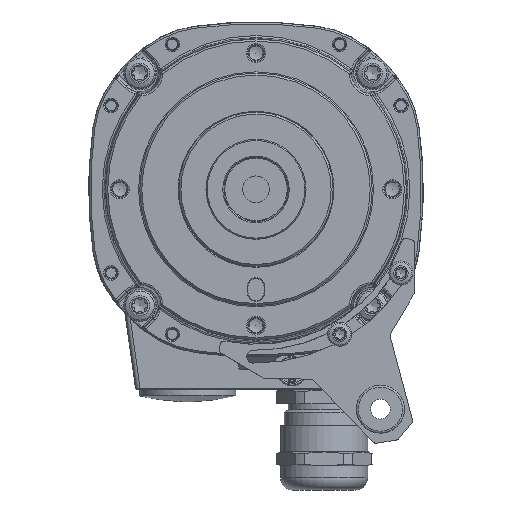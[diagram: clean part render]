
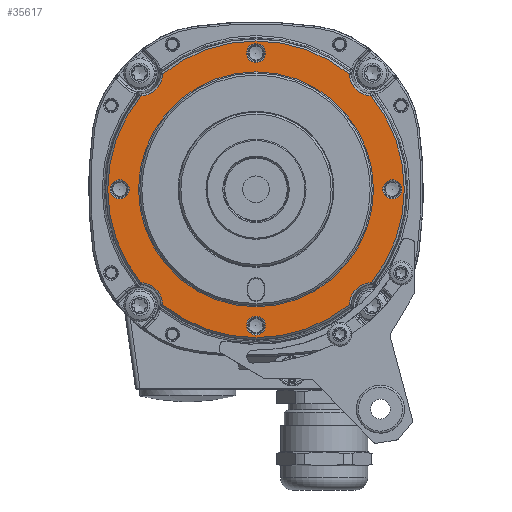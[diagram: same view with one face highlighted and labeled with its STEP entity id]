
A CAD part, front view. The second image highlights one B-rep face of the part: STEP entity #35617.
In plain terms, the highlighted planar face has unit normal (0, -1, 0).
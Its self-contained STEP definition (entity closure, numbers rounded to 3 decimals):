
#511=CIRCLE('',#37230,29.3);
#512=CIRCLE('',#37232,2.366);
#513=CIRCLE('',#37234,2.366);
#514=CIRCLE('',#37236,2.366);
#515=CIRCLE('',#37238,2.366);
#516=CIRCLE('',#37240,37.);
#519=CIRCLE('',#37245,37.);
#544=CIRCLE('',#37283,5.733);
#557=CIRCLE('',#37306,5.733);
#559=CIRCLE('',#37311,5.733);
#560=CIRCLE('',#37312,37.);
#561=CIRCLE('',#37313,5.733);
#562=CIRCLE('',#37314,37.);
#1488=PLANE('',#37310);
#6534=ORIENTED_EDGE('',*,*,#13524,.T.);
#6535=ORIENTED_EDGE('',*,*,#13619,.F.);
#6536=ORIENTED_EDGE('',*,*,#13620,.T.);
#6537=ORIENTED_EDGE('',*,*,#13621,.F.);
#6538=ORIENTED_EDGE('',*,*,#13622,.T.);
#6539=ORIENTED_EDGE('',*,*,#13613,.F.);
#6540=ORIENTED_EDGE('',*,*,#13511,.T.);
#6541=ORIENTED_EDGE('',*,*,#13576,.F.);
#6542=ORIENTED_EDGE('',*,*,#13506,.F.);
#6543=ORIENTED_EDGE('',*,*,#13505,.F.);
#6544=ORIENTED_EDGE('',*,*,#13504,.F.);
#6545=ORIENTED_EDGE('',*,*,#13503,.F.);
#6546=ORIENTED_EDGE('',*,*,#13502,.F.);
#13502=EDGE_CURVE('',#20332,#20332,#511,.T.);
#13503=EDGE_CURVE('',#20333,#20333,#512,.T.);
#13504=EDGE_CURVE('',#20334,#20334,#513,.T.);
#13505=EDGE_CURVE('',#20335,#20335,#514,.T.);
#13506=EDGE_CURVE('',#20336,#20336,#515,.T.);
#13511=EDGE_CURVE('',#20337,#20340,#516,.T.);
#13524=EDGE_CURVE('',#20350,#20349,#519,.T.);
#13576=EDGE_CURVE('',#20350,#20340,#544,.T.);
#13613=EDGE_CURVE('',#20337,#20412,#557,.T.);
#13619=EDGE_CURVE('',#20414,#20349,#559,.T.);
#13620=EDGE_CURVE('',#20414,#20415,#560,.T.);
#13621=EDGE_CURVE('',#20416,#20415,#561,.T.);
#13622=EDGE_CURVE('',#20416,#20412,#562,.T.);
#18302=EDGE_LOOP('',(#6534,#6535,#6536,#6537,#6538,#6539,#6540,#6541));
#18303=EDGE_LOOP('',(#6542));
#18304=EDGE_LOOP('',(#6543));
#18305=EDGE_LOOP('',(#6544));
#18306=EDGE_LOOP('',(#6545));
#18307=EDGE_LOOP('',(#6546));
#20332=VERTEX_POINT('',#55680);
#20333=VERTEX_POINT('',#55683);
#20334=VERTEX_POINT('',#55686);
#20335=VERTEX_POINT('',#55689);
#20336=VERTEX_POINT('',#55692);
#20337=VERTEX_POINT('',#55698);
#20340=VERTEX_POINT('',#55713);
#20349=VERTEX_POINT('',#55796);
#20350=VERTEX_POINT('',#55798);
#20412=VERTEX_POINT('',#56187);
#20414=VERTEX_POINT('',#56230);
#20415=VERTEX_POINT('',#56232);
#20416=VERTEX_POINT('',#56234);
#22755=FACE_BOUND('',#18302,.T.);
#22756=FACE_BOUND('',#18303,.T.);
#22757=FACE_BOUND('',#18304,.T.);
#22758=FACE_BOUND('',#18305,.T.);
#22759=FACE_BOUND('',#18306,.T.);
#22760=FACE_BOUND('',#18307,.T.);
#35617=ADVANCED_FACE('',(#22755,#22756,#22757,#22758,#22759,#22760),#1488,
 .T.);
#37230=AXIS2_PLACEMENT_3D('',#55679,#39943,#39944);
#37232=AXIS2_PLACEMENT_3D('',#55682,#39947,#39948);
#37234=AXIS2_PLACEMENT_3D('',#55685,#39951,#39952);
#37236=AXIS2_PLACEMENT_3D('',#55688,#39955,#39956);
#37238=AXIS2_PLACEMENT_3D('',#55691,#39959,#39960);
#37240=AXIS2_PLACEMENT_3D('',#55714,#39963,#39964);
#37245=AXIS2_PLACEMENT_3D('',#55797,#39973,#39974);
#37283=AXIS2_PLACEMENT_3D('',#55994,#40061,#40062);
#37306=AXIS2_PLACEMENT_3D('',#56186,#40111,#40112);
#37310=AXIS2_PLACEMENT_3D('',#56228,#40119,#40120);
#37311=AXIS2_PLACEMENT_3D('',#56229,#40121,#40122);
#37312=AXIS2_PLACEMENT_3D('',#56231,#40123,#40124);
#37313=AXIS2_PLACEMENT_3D('',#56233,#40125,#40126);
#37314=AXIS2_PLACEMENT_3D('',#56235,#40127,#40128);
#39943=DIRECTION('',(0.,-1.,0.));
#39944=DIRECTION('',(0.,0.,-1.));
#39947=DIRECTION('',(0.,-1.,0.));
#39948=DIRECTION('',(1.,0.,0.));
#39951=DIRECTION('',(0.,-1.,0.));
#39952=DIRECTION('',(0.,0.,1.));
#39955=DIRECTION('',(0.,-1.,0.));
#39956=DIRECTION('',(-1.,0.,0.));
#39959=DIRECTION('',(0.,-1.,0.));
#39960=DIRECTION('',(0.,0.,-1.));
#39963=DIRECTION('',(0.,-1.,0.));
#39964=DIRECTION('',(0.,0.,-1.));
#39973=DIRECTION('',(0.,-1.,0.));
#39974=DIRECTION('',(0.,0.,-1.));
#40061=DIRECTION('',(0.,-1.,0.));
#40062=DIRECTION('',(0.,0.,-1.));
#40111=DIRECTION('',(0.,-1.,0.));
#40112=DIRECTION('',(0.,0.,-1.));
#40119=DIRECTION('',(0.,-1.,0.));
#40120=DIRECTION('',(0.,0.,-1.));
#40121=DIRECTION('',(0.,-1.,0.));
#40122=DIRECTION('',(0.,0.,-1.));
#40123=DIRECTION('',(0.,-1.,0.));
#40124=DIRECTION('',(0.,0.,-1.));
#40125=DIRECTION('',(0.,-1.,0.));
#40126=DIRECTION('',(0.,0.,-1.));
#40127=DIRECTION('',(0.,-1.,0.));
#40128=DIRECTION('',(0.,0.,-1.));
#55679=CARTESIAN_POINT('',(0.,-19.,0.));
#55680=CARTESIAN_POINT('',(0.,-19.,-29.3));
#55682=CARTESIAN_POINT('',(34.,-19.,0.));
#55683=CARTESIAN_POINT('',(36.366,-19.,0.));
#55685=CARTESIAN_POINT('',(0.,-19.,34.));
#55686=CARTESIAN_POINT('',(0.,-19.,36.366));
#55688=CARTESIAN_POINT('',(-34.,-19.,0.));
#55689=CARTESIAN_POINT('',(-36.366,-19.,0.));
#55691=CARTESIAN_POINT('',(0.,-19.,-34.));
#55692=CARTESIAN_POINT('',(0.,-19.,-36.366));
#55698=CARTESIAN_POINT('',(23.263,-19.,28.772));
#55713=CARTESIAN_POINT('',(-23.263,-19.,28.772));
#55714=CARTESIAN_POINT('',(0.,-19.,0.));
#55796=CARTESIAN_POINT('',(-28.772,-19.,-23.263));
#55797=CARTESIAN_POINT('',(0.,-19.,0.));
#55798=CARTESIAN_POINT('',(-28.772,-19.,23.263));
#55994=CARTESIAN_POINT('',(-28.991,-19.,28.991));
#56186=CARTESIAN_POINT('',(28.991,-19.,28.991));
#56187=CARTESIAN_POINT('',(28.772,-19.,23.263));
#56228=CARTESIAN_POINT('',(0.,-19.,-29.));
#56229=CARTESIAN_POINT('',(-28.991,-19.,-28.991));
#56230=CARTESIAN_POINT('',(-23.263,-19.,-28.772));
#56231=CARTESIAN_POINT('',(0.,-19.,0.));
#56232=CARTESIAN_POINT('',(23.263,-19.,-28.772));
#56233=CARTESIAN_POINT('',(28.991,-19.,-28.991));
#56234=CARTESIAN_POINT('',(28.772,-19.,-23.263));
#56235=CARTESIAN_POINT('',(0.,-19.,0.));
